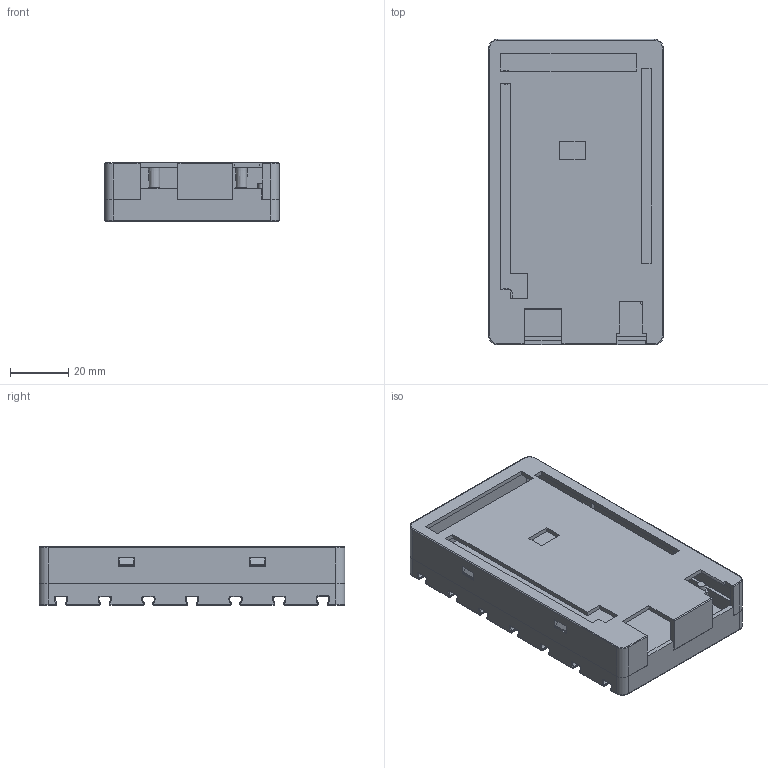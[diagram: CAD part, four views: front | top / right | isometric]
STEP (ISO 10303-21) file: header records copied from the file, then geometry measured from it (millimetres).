
FILE_DESCRIPTION(/* description */ (''),/* implementation_level */ '2;1');
FILE_NAME(/* name */ 'ft_arduino-Mega-Housing.stp',/* time_stamp */ '2024-03-19T13:03:58+01:00',/* author */ (''),/* organization */ (''),/* preprocessor_version */ 'ST-DEVELOPER v19.4',/* originating_system */ 'SIEMENS PLM Software NX2306.8101',/* authorisation */ '');
FILE_SCHEMA (('AUTOMOTIVE_DESIGN { 1 0 10303 214 3 1 1 1 }'));
Length unit declared in the file: millimetre
Products named in the file (1): ft_arduino-Mega-Housing
Bounding box: 60 x 105 x 20 mm (x, y, z)
Volume: 38112.4 mm3; surface area: 39131.4 mm2
Topology: 2 solids, 2 shells, 425 faces, 1045 edges, 580 vertices
Faces by surface type: plane 150, cylinder 148, torus 64, sphere 56, cone 7
Full cylindrical faces by diameter (mm): 4.8 x4
Entity records: 11937 total; most frequent: DIRECTION 2258, CARTESIAN_POINT 1980, ORIENTED_EDGE 1952, EDGE_CURVE 976, AXIS2_PLACEMENT_3D 856, VERTEX_POINT 578, LINE 546, VECTOR 546
